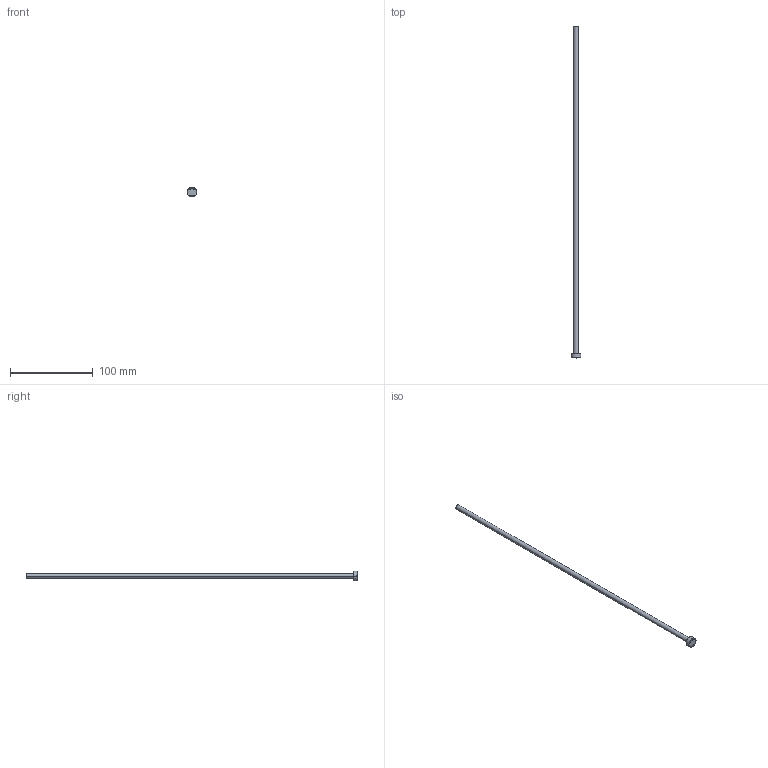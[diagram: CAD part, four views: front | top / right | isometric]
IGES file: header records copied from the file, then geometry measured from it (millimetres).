
Start section: SolidWorks IGES file using analytic representation for surfaces
Global section: file name: C:\Users\User\Downloads\Matripeça 31-08 tar\PB - PINO EXTRATOR TIPO _B_ (CATÁLOGO)\PB06,0\PB06,0400.IGS; native system: SolidWorks 2024; preprocessor: SolidWorks 2024; author: User; date: 260901.144214; units: millimetre
Bounding box: 12 x 400 x 12 mm (x, y, z)
Surface area: 7865.9 mm2 (no closed solid volume)
Topology: 0 solids, 0 shells, 403 faces, 3778 edges, 3778 vertices
Faces by surface type: bspline 389, revolution 14
